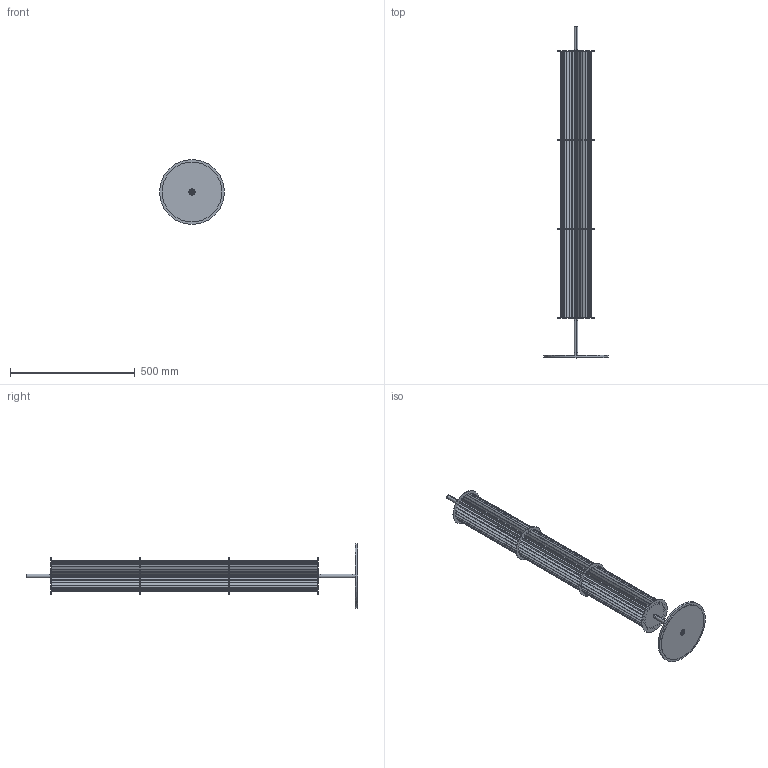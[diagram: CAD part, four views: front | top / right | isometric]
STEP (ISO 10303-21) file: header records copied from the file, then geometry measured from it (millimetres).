
FILE_DESCRIPTION (( 'STEP AP203' ), '1' );
FILE_NAME ('OR.F107.14.STEP', '2026-03-16T14:11:29', ( '' ), ( '' ), 'SwSTEP 2.0', 'SolidWorks 2013', '' );
FILE_SCHEMA (( 'CONFIG_CONTROL_DESIGN' ));
Length unit declared in the file: millimetre
Products named in the file (9): OR.F107.14; GI464-Disc Ø145x2_pas 101; ME052_Tija Ø16x150 M8; ME054_Disco base Ø260x8_agujero para tornillo DIN7991 M8; GI463-Disc Ø145x2_pas 10; base cautxu Ø240; ME051_Tub Ø16x100_M10x1; TP477_Pantalla plisada ORI (24 plecs); DIN7991 M5x15
Assembly tree (12 placements, depth 2):
  OR.F107.14
    GI463-Disc Ø145x2_pas 10  x2
    TP477_Pantalla plisada ORI (24 plecs)  x3
    GI464-Disc Ø145x2_pas 101  x2
    ME052_Tija Ø16x150 M8
    ME051_Tub Ø16x100_M10x1
    ME054_Disco base Ø260x8_agujero para tornillo DIN7991 M8
    DIN7991 M5x15
    base cautxu Ø240
Bounding box: 260 x 1333 x 260 mm (x, y, z)
Volume: 967680 mm3; surface area: 1657564.1 mm2
Topology: 12 solids, 12 shells, 740 faces, 2116 edges, 1408 vertices
Faces by surface type: plane 460, cylinder 274, cone 6
Entity records: 10709 total; most frequent: CARTESIAN_POINT 1881, DIRECTION 1654, ORIENTED_EDGE 1616, EDGE_CURVE 808, LINE 568, VECTOR 568, AXIS2_PLACEMENT_3D 543, VERTEX_POINT 536
